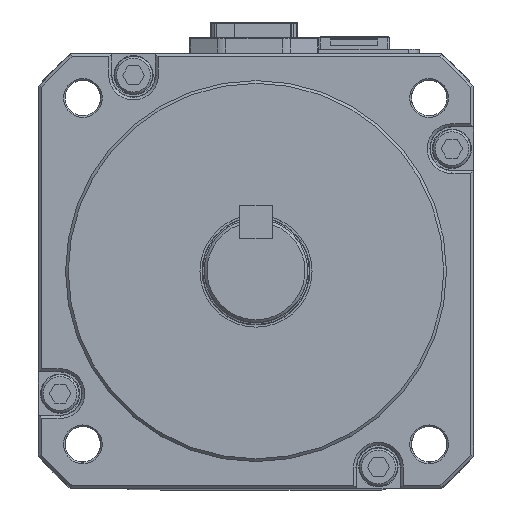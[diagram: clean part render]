
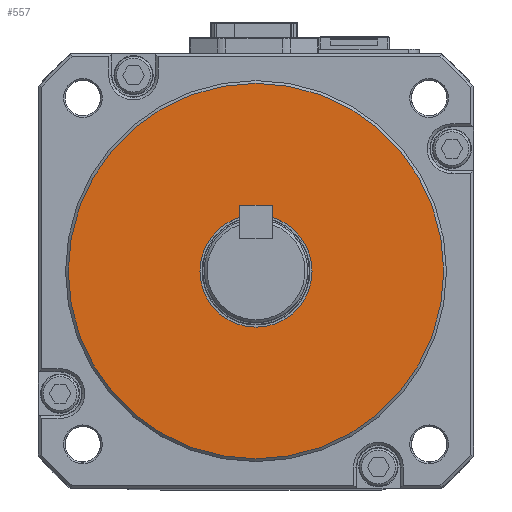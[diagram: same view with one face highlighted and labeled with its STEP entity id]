
A CAD part, top view. The second image highlights one B-rep face of the part: STEP entity #557.
In plain terms, the highlighted planar face has unit normal (0, 0, 1).
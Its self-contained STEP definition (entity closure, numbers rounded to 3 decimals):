
#557 = ADVANCED_FACE ( 'NONE', ( #49208, #16153 ), #38087, .T. ) ;
#5092 = DIRECTION ( 'NONE',  ( 1., 0., 0. ) ) ;
#6745 = CARTESIAN_POINT ( 'NONE',  ( 0., 0., 13. ) ) ;
#10486 = CARTESIAN_POINT ( 'NONE',  ( 0., 0., 13. ) ) ;
#16153 = FACE_OUTER_BOUND ( 'NONE', #48166, .T. ) ;
#17773 = ORIENTED_EDGE ( 'NONE', *, *, #43963, .F. ) ;
#20459 = AXIS2_PLACEMENT_3D ( 'NONE', #10486, #49329, #5092 ) ;
#30686 = EDGE_LOOP ( 'NONE', ( #17773 ) ) ;
#31347 = VERTEX_POINT ( 'NONE', #58909 ) ;
#31493 = DIRECTION ( 'NONE',  ( 0., 0., 1. ) ) ;
#38087 = PLANE ( 'NONE',  #69036 ) ;
#41112 = AXIS2_PLACEMENT_3D ( 'NONE', #63078, #31493, #47978 ) ;
#43963 = EDGE_CURVE ( 'NONE', #31347, #31347, #45687, .T. ) ;
#44532 = VERTEX_POINT ( 'NONE', #61381 ) ;
#45687 = CIRCLE ( 'NONE', #20459, 10.3 ) ;
#46730 = ORIENTED_EDGE ( 'NONE', *, *, #51288, .T. ) ;
#47978 = DIRECTION ( 'NONE',  ( 1., 0., 0. ) ) ;
#48166 = EDGE_LOOP ( 'NONE', ( #46730 ) ) ;
#49208 = FACE_BOUND ( 'NONE', #30686, .T. ) ;
#49329 = DIRECTION ( 'NONE',  ( 0., 0., 1. ) ) ;
#50618 = DIRECTION ( 'NONE',  ( 1., 0., 0. ) ) ;
#51288 = EDGE_CURVE ( 'NONE', #44532, #44532, #57117, .T. ) ;
#57117 = CIRCLE ( 'NONE', #41112, 34.5 ) ;
#58909 = CARTESIAN_POINT ( 'NONE',  ( 10.3, 0., 13. ) ) ;
#61381 = CARTESIAN_POINT ( 'NONE',  ( 34.5, 0., 13. ) ) ;
#62072 = DIRECTION ( 'NONE',  ( 0., 0., 1. ) ) ;
#63078 = CARTESIAN_POINT ( 'NONE',  ( 0., 0., 13. ) ) ;
#69036 = AXIS2_PLACEMENT_3D ( 'NONE', #6745, #62072, #50618 ) ;
